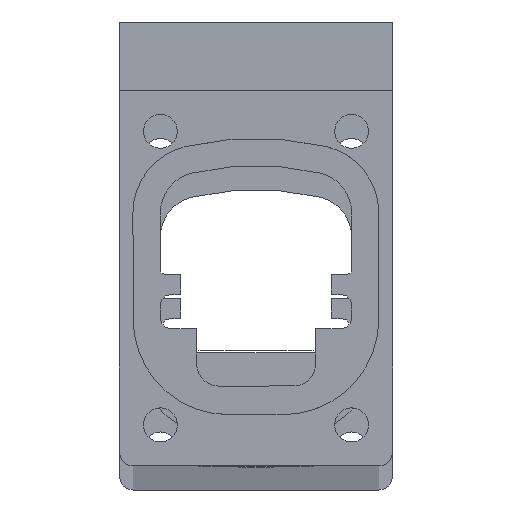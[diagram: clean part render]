
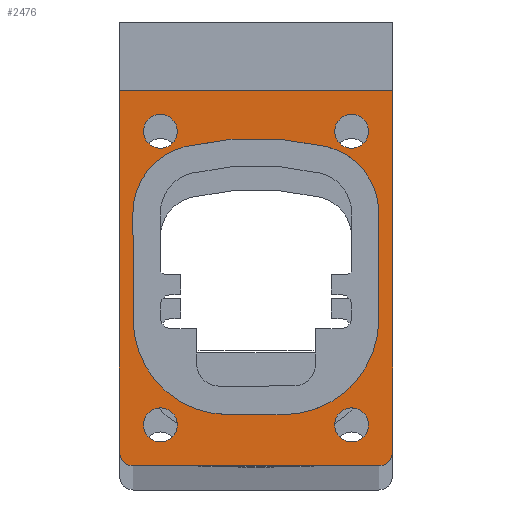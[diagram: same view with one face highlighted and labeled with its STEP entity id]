
A CAD part, top view. The second image highlights one B-rep face of the part: STEP entity #2476.
In plain terms, the highlighted planar face has unit normal (0, 0, 1).
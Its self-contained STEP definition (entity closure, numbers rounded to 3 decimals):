
#104=CARTESIAN_POINT('',(-7.,9.5,1013.));
#105=DIRECTION('',(0.,0.,1.));
#106=DIRECTION('',(1.,0.,0.));
#107=AXIS2_PLACEMENT_3D('',#104,#105,#106);
#109=CARTESIAN_POINT('',(-7.,9.5,1013.));
#110=DIRECTION('',(0.,0.,1.));
#111=DIRECTION('',(-1.,0.,0.));
#112=AXIS2_PLACEMENT_3D('',#109,#110,#111);
#114=CARTESIAN_POINT('',(7.,9.5,1013.));
#115=DIRECTION('',(0.,0.,1.));
#116=DIRECTION('',(1.,0.,0.));
#117=AXIS2_PLACEMENT_3D('',#114,#115,#116);
#119=CARTESIAN_POINT('',(7.,9.5,1013.));
#120=DIRECTION('',(0.,0.,1.));
#121=DIRECTION('',(-1.,0.,0.));
#122=AXIS2_PLACEMENT_3D('',#119,#120,#121);
#124=CARTESIAN_POINT('',(-7.,-12.,1013.));
#125=DIRECTION('',(0.,0.,1.));
#126=DIRECTION('',(1.,0.,0.));
#127=AXIS2_PLACEMENT_3D('',#124,#125,#126);
#129=CARTESIAN_POINT('',(-7.,-12.,1013.));
#130=DIRECTION('',(0.,0.,1.));
#131=DIRECTION('',(-1.,0.,0.));
#132=AXIS2_PLACEMENT_3D('',#129,#130,#131);
#134=CARTESIAN_POINT('',(7.,-12.,1013.));
#135=DIRECTION('',(0.,0.,1.));
#136=DIRECTION('',(1.,0.,0.));
#137=AXIS2_PLACEMENT_3D('',#134,#135,#136);
#139=CARTESIAN_POINT('',(7.,-12.,1013.));
#140=DIRECTION('',(0.,0.,1.));
#141=DIRECTION('',(-1.,0.,0.));
#142=AXIS2_PLACEMENT_3D('',#139,#140,#141);
#144=CARTESIAN_POINT('',(3.988,3.519,1013.));
#145=DIRECTION('',(0.,0.,1.));
#146=DIRECTION('',(1.,0.001,0.));
#147=AXIS2_PLACEMENT_3D('',#144,#145,#146);
#149=CARTESIAN_POINT('',(-0.016,-13.,1013.));
#150=DIRECTION('',(0.,0.,1.));
#151=DIRECTION('',(0.235,0.972,0.));
#152=AXIS2_PLACEMENT_3D('',#149,#150,#151);
#154=CARTESIAN_POINT('',(-4.012,3.526,1013.));
#155=DIRECTION('',(0.,0.,1.));
#156=DIRECTION('',(-0.236,0.972,0.));
#157=AXIS2_PLACEMENT_3D('',#154,#155,#156);
#159=DIRECTION('',(0.001,-1.,0.));
#160=VECTOR('',#159,7.773);
#161=CARTESIAN_POINT('',(-9.01,3.523,1013.));
#162=LINE('',#161,#160);
#163=CARTESIAN_POINT('',(-2.006,-4.255,1013.));
#164=DIRECTION('',(0.,0.,1.));
#165=DIRECTION('',(-1.,0.001,0.));
#166=AXIS2_PLACEMENT_3D('',#163,#164,#165);
#168=DIRECTION('',(1.,0.,0.));
#169=VECTOR('',#168,4.);
#170=CARTESIAN_POINT('',(-2.017,-11.25,1013.));
#171=LINE('',#170,#169);
#172=CARTESIAN_POINT('',(1.994,-4.245,1013.));
#173=DIRECTION('',(0.,0.,1.));
#174=DIRECTION('',(-0.002,-1.,0.));
#175=AXIS2_PLACEMENT_3D('',#172,#173,#174);
#177=DIRECTION('',(-0.001,1.,0.));
#178=VECTOR('',#177,7.773);
#179=CARTESIAN_POINT('',(9.,-4.25,1013.));
#180=LINE('',#179,#178);
#181=CARTESIAN_POINT('',(9.,-14.,1013.));
#182=DIRECTION('',(0.,0.,-1.));
#183=DIRECTION('',(1.,0.,0.));
#184=AXIS2_PLACEMENT_3D('',#181,#182,#183);
#186=DIRECTION('',(1.,0.,0.));
#187=VECTOR('',#186,18.);
#188=CARTESIAN_POINT('',(-9.,-15.,1013.));
#189=LINE('',#188,#187);
#190=CARTESIAN_POINT('',(-9.,-14.,1013.));
#191=DIRECTION('',(0.,0.,-1.));
#192=DIRECTION('',(0.,-1.,0.));
#193=AXIS2_PLACEMENT_3D('',#190,#191,#192);
#195=DIRECTION('',(0.,-1.,0.));
#196=VECTOR('',#195,26.5);
#197=CARTESIAN_POINT('',(-10.,12.5,1013.));
#198=LINE('',#197,#196);
#199=DIRECTION('',(1.,0.,0.));
#200=VECTOR('',#199,20.);
#201=CARTESIAN_POINT('',(-10.,12.5,1013.));
#202=LINE('',#201,#200);
#203=DIRECTION('',(0.,1.,0.));
#204=VECTOR('',#203,26.5);
#205=CARTESIAN_POINT('',(10.,-14.,1013.));
#206=LINE('',#205,#204);
#1906=CARTESIAN_POINT('',(-10.,12.5,1013.));
#1907=CARTESIAN_POINT('',(10.,12.5,1013.));
#1908=VERTEX_POINT('',#1906);
#1909=VERTEX_POINT('',#1907);
#1934=CARTESIAN_POINT('',(-5.75,9.5,1013.));
#1935=CARTESIAN_POINT('',(-8.25,9.5,1013.));
#1936=VERTEX_POINT('',#1934);
#1937=VERTEX_POINT('',#1935);
#1938=CARTESIAN_POINT('',(8.25,9.5,1013.));
#1939=CARTESIAN_POINT('',(5.75,9.5,1013.));
#1940=VERTEX_POINT('',#1938);
#1941=VERTEX_POINT('',#1939);
#1942=CARTESIAN_POINT('',(-5.75,-12.,1013.));
#1943=CARTESIAN_POINT('',(-8.25,-12.,1013.));
#1944=VERTEX_POINT('',#1942);
#1945=VERTEX_POINT('',#1943);
#1946=CARTESIAN_POINT('',(8.25,-12.,1013.));
#1947=CARTESIAN_POINT('',(5.75,-12.,1013.));
#1948=VERTEX_POINT('',#1946);
#1949=VERTEX_POINT('',#1947);
#1966=CARTESIAN_POINT('',(8.99,3.523,1013.));
#1967=CARTESIAN_POINT('',(5.159,8.383,1013.));
#1968=VERTEX_POINT('',#1966);
#1969=VERTEX_POINT('',#1967);
#1970=CARTESIAN_POINT('',(-5.193,8.382,1013.));
#1971=VERTEX_POINT('',#1970);
#1972=CARTESIAN_POINT('',(-9.01,3.523,1013.));
#1973=VERTEX_POINT('',#1972);
#1974=CARTESIAN_POINT('',(-9.,-4.25,1013.));
#1975=VERTEX_POINT('',#1974);
#1976=CARTESIAN_POINT('',(-2.017,-11.25,1013.));
#1977=VERTEX_POINT('',#1976);
#1978=CARTESIAN_POINT('',(1.983,-11.25,1013.));
#1979=VERTEX_POINT('',#1978);
#1980=CARTESIAN_POINT('',(9.,-4.25,1013.));
#1981=VERTEX_POINT('',#1980);
#2164=CARTESIAN_POINT('',(9.,-15.,1013.));
#2165=VERTEX_POINT('',#2164);
#2166=CARTESIAN_POINT('',(10.,-14.,1013.));
#2167=VERTEX_POINT('',#2166);
#2172=CARTESIAN_POINT('',(-10.,-14.,1013.));
#2173=VERTEX_POINT('',#2172);
#2174=CARTESIAN_POINT('',(-9.,-15.,1013.));
#2175=VERTEX_POINT('',#2174);
#2415=CARTESIAN_POINT('',(0.,0.,1013.));
#2416=DIRECTION('',(0.,0.,1.));
#2417=DIRECTION('',(1.,0.,0.));
#2418=AXIS2_PLACEMENT_3D('',#2415,#2416,#2417);
#2419=PLANE('',#2418);
#2421=ORIENTED_EDGE('',*,*,#2420,.T.);
#2423=ORIENTED_EDGE('',*,*,#2422,.F.);
#2425=ORIENTED_EDGE('',*,*,#2424,.T.);
#2427=ORIENTED_EDGE('',*,*,#2426,.F.);
#2429=ORIENTED_EDGE('',*,*,#2428,.T.);
#2431=ORIENTED_EDGE('',*,*,#2430,.F.);
#2432=EDGE_LOOP('',(#2421,#2423,#2425,#2427,#2429,#2431));
#2433=FACE_OUTER_BOUND('',#2432,.F.);
#2435=ORIENTED_EDGE('',*,*,#2434,.T.);
#2437=ORIENTED_EDGE('',*,*,#2436,.T.);
#2438=EDGE_LOOP('',(#2435,#2437));
#2439=FACE_BOUND('',#2438,.F.);
#2441=ORIENTED_EDGE('',*,*,#2440,.T.);
#2443=ORIENTED_EDGE('',*,*,#2442,.T.);
#2444=EDGE_LOOP('',(#2441,#2443));
#2445=FACE_BOUND('',#2444,.F.);
#2447=ORIENTED_EDGE('',*,*,#2446,.T.);
#2449=ORIENTED_EDGE('',*,*,#2448,.T.);
#2450=EDGE_LOOP('',(#2447,#2449));
#2451=FACE_BOUND('',#2450,.F.);
#2453=ORIENTED_EDGE('',*,*,#2452,.T.);
#2455=ORIENTED_EDGE('',*,*,#2454,.T.);
#2457=ORIENTED_EDGE('',*,*,#2456,.T.);
#2459=ORIENTED_EDGE('',*,*,#2458,.T.);
#2461=ORIENTED_EDGE('',*,*,#2460,.T.);
#2463=ORIENTED_EDGE('',*,*,#2462,.T.);
#2465=ORIENTED_EDGE('',*,*,#2464,.T.);
#2467=ORIENTED_EDGE('',*,*,#2466,.T.);
#2468=EDGE_LOOP('',(#2453,#2455,#2457,#2459,#2461,#2463,#2465,#2467));
#2469=FACE_BOUND('',#2468,.F.);
#2471=ORIENTED_EDGE('',*,*,#2470,.T.);
#2473=ORIENTED_EDGE('',*,*,#2472,.T.);
#2474=EDGE_LOOP('',(#2471,#2473));
#2475=FACE_BOUND('',#2474,.F.);
#2476=ADVANCED_FACE('',(#2433,#2439,#2445,#2451,#2469,#2475),#2419,.T.);
#108=CIRCLE('',#107,1.25);
#113=CIRCLE('',#112,1.25);
#118=CIRCLE('',#117,1.25);
#123=CIRCLE('',#122,1.25);
#128=CIRCLE('',#127,1.25);
#133=CIRCLE('',#132,1.25);
#138=CIRCLE('',#137,1.25);
#143=CIRCLE('',#142,1.25);
#148=CIRCLE('',#147,5.002);
#153=CIRCLE('',#152,22.);
#158=CIRCLE('',#157,4.998);
#167=CIRCLE('',#166,6.994);
#176=CIRCLE('',#175,7.006);
#185=CIRCLE('',#184,1.);
#194=CIRCLE('',#193,1.);
#2420=EDGE_CURVE('',#2167,#2165,#185,.T.);
#2422=EDGE_CURVE('',#2175,#2165,#189,.T.);
#2424=EDGE_CURVE('',#2175,#2173,#194,.T.);
#2426=EDGE_CURVE('',#1908,#2173,#198,.T.);
#2428=EDGE_CURVE('',#1908,#1909,#202,.T.);
#2430=EDGE_CURVE('',#2167,#1909,#206,.T.);
#2434=EDGE_CURVE('',#1940,#1941,#118,.T.);
#2436=EDGE_CURVE('',#1941,#1940,#123,.T.);
#2440=EDGE_CURVE('',#1944,#1945,#128,.T.);
#2442=EDGE_CURVE('',#1945,#1944,#133,.T.);
#2446=EDGE_CURVE('',#1948,#1949,#138,.T.);
#2448=EDGE_CURVE('',#1949,#1948,#143,.T.);
#2452=EDGE_CURVE('',#1968,#1969,#148,.T.);
#2454=EDGE_CURVE('',#1969,#1971,#153,.T.);
#2456=EDGE_CURVE('',#1971,#1973,#158,.T.);
#2458=EDGE_CURVE('',#1973,#1975,#162,.T.);
#2460=EDGE_CURVE('',#1975,#1977,#167,.T.);
#2462=EDGE_CURVE('',#1977,#1979,#171,.T.);
#2464=EDGE_CURVE('',#1979,#1981,#176,.T.);
#2466=EDGE_CURVE('',#1981,#1968,#180,.T.);
#2470=EDGE_CURVE('',#1936,#1937,#108,.T.);
#2472=EDGE_CURVE('',#1937,#1936,#113,.T.);
